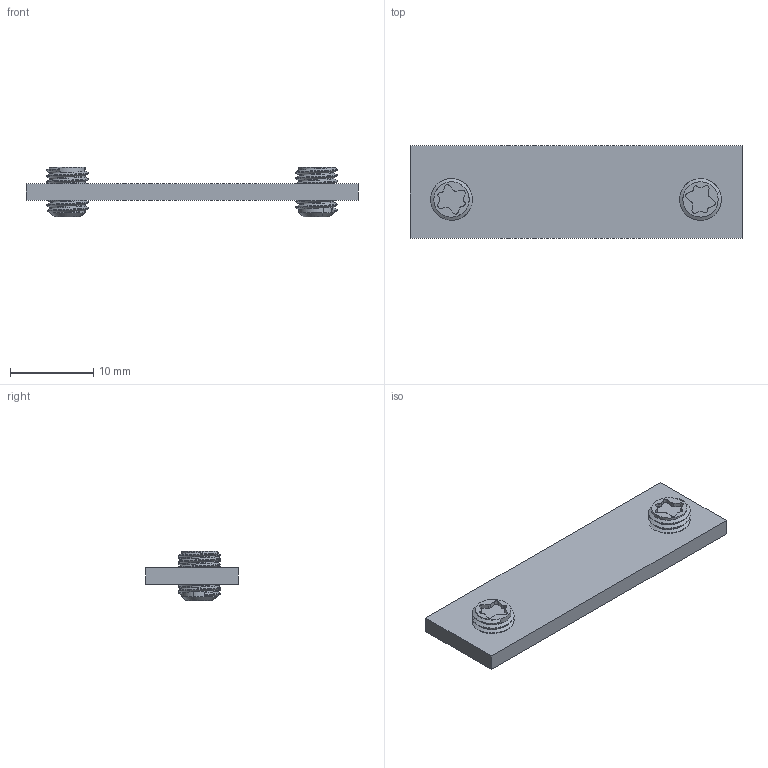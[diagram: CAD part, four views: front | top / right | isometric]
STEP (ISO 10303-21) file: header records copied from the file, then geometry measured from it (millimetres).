
FILE_DESCRIPTION (( 'STEP AP203' ), '1' );
FILE_NAME ('Edge - Screw Plate Assembly.STEP', '2024-07-11T15:33:53', ( '' ), ( '' ), 'SwSTEP 2.0', 'SolidWorks 2020', '' );
FILE_SCHEMA (( 'CONFIG_CONTROL_DESIGN' ));
Length unit declared in the file: millimetre
Products named in the file (3): Edge - Screw Plate Assembly; Screw Plate - Screw; Edge - Screw Plate
Assembly tree (3 placements, depth 2):
  Edge - Screw Plate Assembly
    Edge - Screw Plate
    Screw Plate - Screw  x2
Bounding box: 40 x 11.2 x 6 mm (x, y, z)
Volume: 1029 mm3; surface area: 1422.6 mm2
Topology: 3 solids, 3 shells, 116 faces, 312 edges, 204 vertices
Faces by surface type: cylinder 64, plane 40, bspline 8, cone 4
Entity records: 4401 total; most frequent: CARTESIAN_POINT 2561, ORIENTED_EDGE 336, DIRECTION 300, EDGE_CURVE 168, VERTEX_POINT 110, AXIS2_PLACEMENT_3D 108, LINE 84, VECTOR 84
